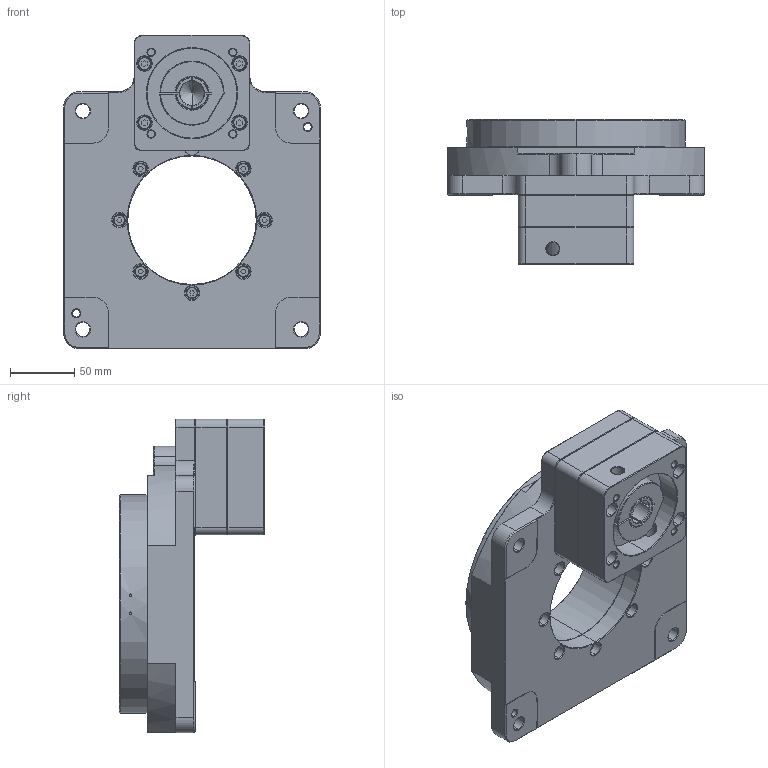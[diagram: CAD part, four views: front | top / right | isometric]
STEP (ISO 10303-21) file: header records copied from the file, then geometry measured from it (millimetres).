
FILE_DESCRIPTION (( 'STEP AP203' ), '1' );
FILE_NAME ('NT200-炵蹈-塋拊佴杻ANDANTEX.STEP', '2021-08-04T09:06:08', ( 'Windows User' ), ( 'P R C' ), 'SwSTEP 2.0', 'SolidWorks 2016', '' );
FILE_SCHEMA (( 'CONFIG_CONTROL_DESIGN' ));
Length unit declared in the file: millimetre
Products named in the file (1): NT200-炵蹈-塋拊佴杻ANDANTEX
Bounding box: 200 x 113 x 243.9 mm (x, y, z)
Surface area: 194220.8 mm2 (no closed solid volume)
Topology: 0 solids, 4 shells, 564 faces, 1334 edges, 831 vertices
Faces by surface type: plane 243, cone 162, cylinder 158, bspline 1
Entity records: 18865 total; most frequent: CARTESIAN_POINT 5643, DIRECTION 2823, ORIENTED_EDGE 2643, EDGE_CURVE 1331, AXIS2_PLACEMENT_3D 1055, VERTEX_POINT 831, LINE 713, VECTOR 713
